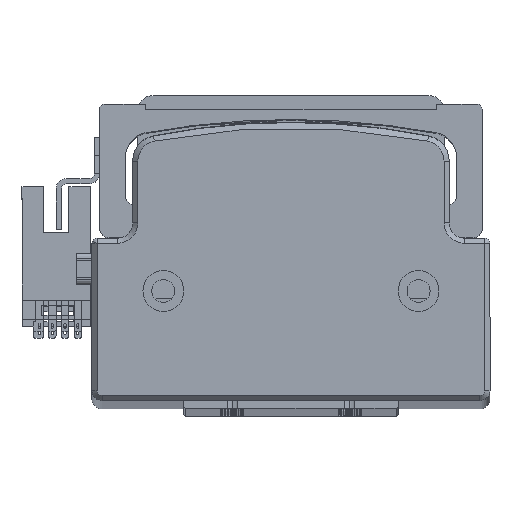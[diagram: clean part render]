
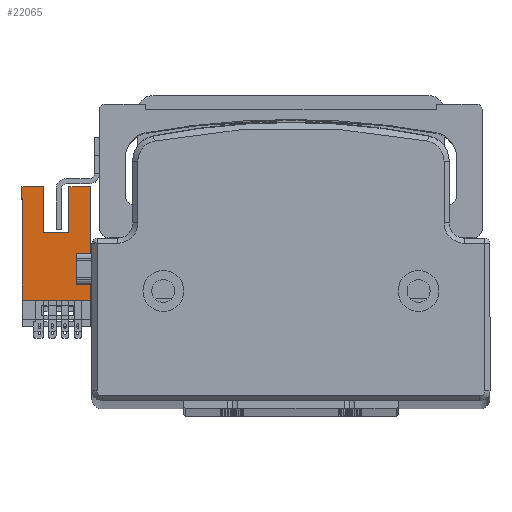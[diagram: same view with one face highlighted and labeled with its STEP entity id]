
A CAD part, top view. The second image highlights one B-rep face of the part: STEP entity #22065.
In plain terms, the highlighted planar face has unit normal (0, 0, 1) as drawn and (1, 0, 0) by its records, which use the part's own axes.
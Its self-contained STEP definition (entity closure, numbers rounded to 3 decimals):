
#44 = LINE ( 'NONE', #40492, #27225 ) ;
#311 = LINE ( 'NONE', #2720, #8225 ) ;
#488 = LINE ( 'NONE', #31611, #40285 ) ;
#654 = VECTOR ( 'NONE', #31962, 1000. ) ;
#1623 = ORIENTED_EDGE ( 'NONE', *, *, #48333, .F. ) ;
#2081 = DIRECTION ( 'NONE',  ( 0., 1., 0. ) ) ;
#2107 = LINE ( 'NONE', #16415, #41899 ) ;
#2577 = AXIS2_PLACEMENT_3D ( 'NONE', #21436, #48357, #25324 ) ;
#2720 = CARTESIAN_POINT ( 'NONE',  ( 3.2, 3.85, 3. ) ) ;
#3800 = VERTEX_POINT ( 'NONE', #39052 ) ;
#4174 = CARTESIAN_POINT ( 'NONE',  ( 3.2, -2.65, 22.2 ) ) ;
#4905 = DIRECTION ( 'NONE',  ( 0., -1., 0. ) ) ;
#5024 = VECTOR ( 'NONE', #25196, 1000. ) ;
#6663 = LINE ( 'NONE', #21214, #46386 ) ;
#6753 = EDGE_CURVE ( 'NONE', #46042, #41151, #19088, .T. ) ;
#6963 = CARTESIAN_POINT ( 'NONE',  ( 3.2, 6.55, 0. ) ) ;
#7087 = LINE ( 'NONE', #40063, #26375 ) ;
#7343 = EDGE_CURVE ( 'NONE', #3800, #16966, #14091, .T. ) ;
#8225 = VECTOR ( 'NONE', #41122, 1000. ) ;
#8700 = CARTESIAN_POINT ( 'NONE',  ( 3.2, 6.55, 22.2 ) ) ;
#9879 = LINE ( 'NONE', #46078, #23800 ) ;
#10497 = EDGE_CURVE ( 'NONE', #16966, #41151, #19028, .T. ) ;
#10868 = ORIENTED_EDGE ( 'NONE', *, *, #6753, .F. ) ;
#11455 = ORIENTED_EDGE ( 'NONE', *, *, #10497, .T. ) ;
#14091 = LINE ( 'NONE', #48235, #5024 ) ;
#14522 = DIRECTION ( 'NONE',  ( 0., -1., 0. ) ) ;
#16274 = CARTESIAN_POINT ( 'NONE',  ( 3.2, -6.85, 0. ) ) ;
#16415 = CARTESIAN_POINT ( 'NONE',  ( 3.2, 3.85, 0. ) ) ;
#16966 = VERTEX_POINT ( 'NONE', #8700 ) ;
#17432 = VERTEX_POINT ( 'NONE', #16274 ) ;
#18250 = VECTOR ( 'NONE', #35159, 1000. ) ;
#18259 = CARTESIAN_POINT ( 'NONE',  ( 3.2, 3.85, 9.2 ) ) ;
#18528 = ORIENTED_EDGE ( 'NONE', *, *, #41304, .F. ) ;
#19028 = LINE ( 'NONE', #37530, #39442 ) ;
#19088 = LINE ( 'NONE', #43605, #37116 ) ;
#19171 = DIRECTION ( 'NONE',  ( 0., 1., 0. ) ) ;
#19391 = ORIENTED_EDGE ( 'NONE', *, *, #27752, .T. ) ;
#19851 = VERTEX_POINT ( 'NONE', #18259 ) ;
#20538 = DIRECTION ( 'NONE',  ( 0., 0., 1. ) ) ;
#21214 = CARTESIAN_POINT ( 'NONE',  ( 3.2, -2.65, 13.2 ) ) ;
#21436 = CARTESIAN_POINT ( 'NONE',  ( 3.2, 3.85, 0. ) ) ;
#22065 = ADVANCED_FACE ( 'NONE', ( #22078 ), #48194, .T. ) ;
#22078 = FACE_OUTER_BOUND ( 'NONE', #42077, .T. ) ;
#22897 = VERTEX_POINT ( 'NONE', #27738 ) ;
#23620 = CARTESIAN_POINT ( 'NONE',  ( 3.2, 6.55, 0. ) ) ;
#23800 = VECTOR ( 'NONE', #19171, 1000. ) ;
#23982 = CARTESIAN_POINT ( 'NONE',  ( 3.2, -2.65, 13.2 ) ) ;
#25196 = DIRECTION ( 'NONE',  ( 0., 0., 1. ) ) ;
#25324 = DIRECTION ( 'NONE',  ( 0., 0., -1. ) ) ;
#26375 = VECTOR ( 'NONE', #44007, 1000. ) ;
#26449 = ORIENTED_EDGE ( 'NONE', *, *, #39607, .T. ) ;
#26785 = VERTEX_POINT ( 'NONE', #6963 ) ;
#26824 = EDGE_CURVE ( 'NONE', #19851, #3800, #44, .T. ) ;
#27225 = VECTOR ( 'NONE', #2081, 1000. ) ;
#27738 = CARTESIAN_POINT ( 'NONE',  ( 3.2, 3.85, 3. ) ) ;
#27752 = EDGE_CURVE ( 'NONE', #32609, #44127, #488, .T. ) ;
#28092 = CARTESIAN_POINT ( 'NONE',  ( 3.2, 3.85, 0. ) ) ;
#28443 = LINE ( 'NONE', #23620, #18250 ) ;
#30320 = CARTESIAN_POINT ( 'NONE',  ( 3.2, 2.35, 22.2 ) ) ;
#31417 = LINE ( 'NONE', #28092, #654 ) ;
#31611 = CARTESIAN_POINT ( 'NONE',  ( 3.2, 3.85, 22.2 ) ) ;
#31962 = DIRECTION ( 'NONE',  ( 0., 0., 1. ) ) ;
#32609 = VERTEX_POINT ( 'NONE', #4174 ) ;
#33207 = CARTESIAN_POINT ( 'NONE',  ( 3.2, 6.55, 3. ) ) ;
#33670 = ORIENTED_EDGE ( 'NONE', *, *, #44729, .T. ) ;
#35159 = DIRECTION ( 'NONE',  ( 0., 0., 1. ) ) ;
#37116 = VECTOR ( 'NONE', #20538, 1000. ) ;
#37530 = CARTESIAN_POINT ( 'NONE',  ( 3.2, 3.85, 22.2 ) ) ;
#37797 = VERTEX_POINT ( 'NONE', #23982 ) ;
#38329 = VERTEX_POINT ( 'NONE', #33207 ) ;
#39052 = CARTESIAN_POINT ( 'NONE',  ( 3.2, 6.55, 9.2 ) ) ;
#39442 = VECTOR ( 'NONE', #14522, 1000. ) ;
#39507 = EDGE_CURVE ( 'NONE', #26785, #38329, #28443, .T. ) ;
#39607 = EDGE_CURVE ( 'NONE', #22897, #19851, #31417, .T. ) ;
#40063 = CARTESIAN_POINT ( 'NONE',  ( 3.2, -6.85, 0. ) ) ;
#40285 = VECTOR ( 'NONE', #4905, 1000. ) ;
#40294 = ORIENTED_EDGE ( 'NONE', *, *, #7343, .T. ) ;
#40492 = CARTESIAN_POINT ( 'NONE',  ( 3.2, -6.85, 9.2 ) ) ;
#41122 = DIRECTION ( 'NONE',  ( 0., 1., 0. ) ) ;
#41151 = VERTEX_POINT ( 'NONE', #30320 ) ;
#41304 = EDGE_CURVE ( 'NONE', #26785, #17432, #2107, .T. ) ;
#41899 = VECTOR ( 'NONE', #47166, 1000. ) ;
#42077 = EDGE_LOOP ( 'NONE', ( #33670, #19391, #47717, #18528, #49848, #1623, #26449, #48750, #40294, #11455, #10868, #47111 ) ) ;
#42153 = CARTESIAN_POINT ( 'NONE',  ( 3.2, 2.35, 13.2 ) ) ;
#43605 = CARTESIAN_POINT ( 'NONE',  ( 3.2, 2.35, 13.2 ) ) ;
#44007 = DIRECTION ( 'NONE',  ( 0., 0., 1. ) ) ;
#44127 = VERTEX_POINT ( 'NONE', #47834 ) ;
#44252 = DIRECTION ( 'NONE',  ( 0., 0., 1. ) ) ;
#44729 = EDGE_CURVE ( 'NONE', #37797, #32609, #6663, .T. ) ;
#46042 = VERTEX_POINT ( 'NONE', #42153 ) ;
#46078 = CARTESIAN_POINT ( 'NONE',  ( 3.2, 2.35, 13.2 ) ) ;
#46386 = VECTOR ( 'NONE', #44252, 1000. ) ;
#47111 = ORIENTED_EDGE ( 'NONE', *, *, #47147, .F. ) ;
#47147 = EDGE_CURVE ( 'NONE', #37797, #46042, #9879, .T. ) ;
#47166 = DIRECTION ( 'NONE',  ( 0., -1., 0. ) ) ;
#47717 = ORIENTED_EDGE ( 'NONE', *, *, #48024, .F. ) ;
#47834 = CARTESIAN_POINT ( 'NONE',  ( 3.2, -6.85, 22.2 ) ) ;
#48024 = EDGE_CURVE ( 'NONE', #17432, #44127, #7087, .T. ) ;
#48194 = PLANE ( 'NONE',  #2577 ) ;
#48235 = CARTESIAN_POINT ( 'NONE',  ( 3.2, 6.55, 0. ) ) ;
#48333 = EDGE_CURVE ( 'NONE', #22897, #38329, #311, .T. ) ;
#48357 = DIRECTION ( 'NONE',  ( 1., 0., 0. ) ) ;
#48750 = ORIENTED_EDGE ( 'NONE', *, *, #26824, .T. ) ;
#49848 = ORIENTED_EDGE ( 'NONE', *, *, #39507, .T. ) ;
